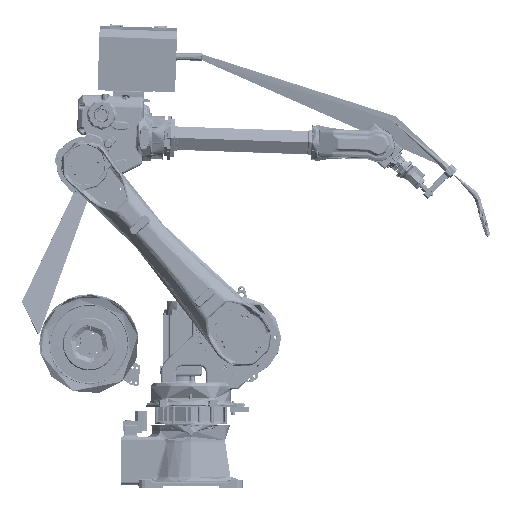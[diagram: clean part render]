
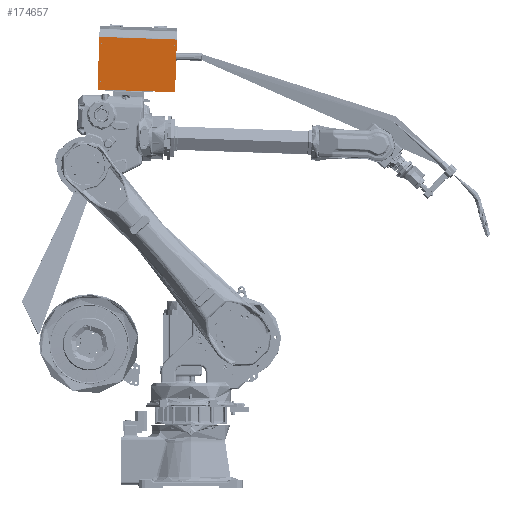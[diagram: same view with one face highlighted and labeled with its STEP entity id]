
A CAD part, front view. The second image highlights one B-rep face of the part: STEP entity #174657.
In plain terms, the highlighted planar face has unit normal (-0.003, -0.997, -0.079).
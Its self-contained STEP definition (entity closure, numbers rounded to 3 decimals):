
#173813=DIRECTION('',(-0.034,0.079,-0.996));
#173814=VECTOR('',#173813,177.006);
#173815=CARTESIAN_POINT('',(-306.612,-95.127,
1659.792));
#173816=LINE('',#173815,#173814);
#174059=DIRECTION('',(0.999,0.,
-0.035));
#174060=VECTOR('',#174059,260.);
#174061=CARTESIAN_POINT('',(-312.714,-81.098,
1483.449));
#174062=LINE('',#174061,#174060);
#174067=DIRECTION('',(-0.034,0.079,-0.996));
#174068=VECTOR('',#174067,177.006);
#174069=CARTESIAN_POINT('',(-46.768,-95.127,
1650.802));
#174070=LINE('',#174069,#174068);
#174071=CARTESIAN_POINT('',(-299.341,-93.462,
1638.588));
#174072=DIRECTION('',(-0.003,-0.997,
-0.079));
#174073=DIRECTION('',(-0.999,0.,0.035));
#174074=AXIS2_PLACEMENT_3D('',#174071,#174072,#174073);
#174076=CARTESIAN_POINT('',(-299.341,-93.462,
1638.588));
#174077=DIRECTION('',(-0.003,-0.997,
-0.079));
#174078=DIRECTION('',(0.999,0.,-0.035));
#174079=AXIS2_PLACEMENT_3D('',#174076,#174077,#174078);
#174081=CARTESIAN_POINT('',(-59.899,-83.318,
1502.63));
#174082=DIRECTION('',(-0.003,-0.997,
-0.079));
#174083=DIRECTION('',(-0.999,0.,0.035));
#174084=AXIS2_PLACEMENT_3D('',#174081,#174082,#174083);
#174086=CARTESIAN_POINT('',(-59.899,-83.318,
1502.63));
#174087=DIRECTION('',(-0.003,-0.997,
-0.079));
#174088=DIRECTION('',(0.999,0.,
-0.035));
#174089=AXIS2_PLACEMENT_3D('',#174086,#174087,#174088);
#174091=CARTESIAN_POINT('',(-55.487,-93.462,
1630.151));
#174092=DIRECTION('',(-0.003,-0.997,
-0.079));
#174093=DIRECTION('',(-0.999,0.,0.035));
#174094=AXIS2_PLACEMENT_3D('',#174091,#174092,#174093);
#174096=CARTESIAN_POINT('',(-55.487,-93.462,
1630.151));
#174097=DIRECTION('',(-0.003,-0.997,
-0.079));
#174098=DIRECTION('',(0.999,0.,
-0.035));
#174099=AXIS2_PLACEMENT_3D('',#174096,#174097,#174098);
#174101=CARTESIAN_POINT('',(-303.753,-83.318,
1511.067));
#174102=DIRECTION('',(-0.003,-0.997,
-0.079));
#174103=DIRECTION('',(-0.999,0.,
0.035));
#174104=AXIS2_PLACEMENT_3D('',#174101,#174102,#174103);
#174106=CARTESIAN_POINT('',(-303.753,-83.318,
1511.067));
#174107=DIRECTION('',(-0.003,-0.997,
-0.079));
#174108=DIRECTION('',(0.999,0.,
-0.035));
#174109=AXIS2_PLACEMENT_3D('',#174106,#174107,#174108);
#174115=DIRECTION('',(-0.999,0.,0.035));
#174116=VECTOR('',#174115,260.);
#174117=CARTESIAN_POINT('',(-46.768,-95.127,
1650.802));
#174118=LINE('',#174117,#174116);
#174245=CARTESIAN_POINT('',(-306.612,-95.127,
1659.792));
#174246=VERTEX_POINT('',#174245);
#174247=CARTESIAN_POINT('',(-312.714,-81.098,
1483.449));
#174248=VERTEX_POINT('',#174247);
#174343=CARTESIAN_POINT('',(-52.869,-81.098,
1474.458));
#174344=VERTEX_POINT('',#174343);
#174345=CARTESIAN_POINT('',(-46.768,-95.127,
1650.802));
#174346=VERTEX_POINT('',#174345);
#174347=CARTESIAN_POINT('',(-301.44,-93.462,
1638.661));
#174348=CARTESIAN_POINT('',(-297.242,-93.462,
1638.516));
#174349=VERTEX_POINT('',#174347);
#174350=VERTEX_POINT('',#174348);
#174351=CARTESIAN_POINT('',(-61.998,-83.318,
1502.703));
#174352=CARTESIAN_POINT('',(-57.8,-83.318,
1502.557));
#174353=VERTEX_POINT('',#174351);
#174354=VERTEX_POINT('',#174352);
#174355=CARTESIAN_POINT('',(-57.586,-93.462,
1630.224));
#174356=CARTESIAN_POINT('',(-53.388,-93.462,
1630.078));
#174357=VERTEX_POINT('',#174355);
#174358=VERTEX_POINT('',#174356);
#174359=CARTESIAN_POINT('',(-305.852,-83.318,
1511.14));
#174360=CARTESIAN_POINT('',(-301.654,-83.318,
1510.995));
#174361=VERTEX_POINT('',#174359);
#174362=VERTEX_POINT('',#174360);
#174620=CARTESIAN_POINT('',(-306.578,-95.206,
1660.783));
#174621=DIRECTION('',(-0.003,-0.997,
-0.079));
#174622=DIRECTION('',(-0.034,0.079,-0.996));
#174623=AXIS2_PLACEMENT_3D('',#174620,#174621,#174622);
#174624=PLANE('',#174623);
#174626=ORIENTED_EDGE('',*,*,#174625,.F.);
#174628=ORIENTED_EDGE('',*,*,#174627,.T.);
#174629=ORIENTED_EDGE('',*,*,#174613,.F.);
#174630=ORIENTED_EDGE('',*,*,#174376,.F.);
#174631=EDGE_LOOP('',(#174626,#174628,#174629,#174630));
#174632=FACE_OUTER_BOUND('',#174631,.F.);
#174634=ORIENTED_EDGE('',*,*,#174633,.T.);
#174636=ORIENTED_EDGE('',*,*,#174635,.T.);
#174637=EDGE_LOOP('',(#174634,#174636));
#174638=FACE_BOUND('',#174637,.F.);
#174640=ORIENTED_EDGE('',*,*,#174639,.T.);
#174642=ORIENTED_EDGE('',*,*,#174641,.T.);
#174643=EDGE_LOOP('',(#174640,#174642));
#174644=FACE_BOUND('',#174643,.F.);
#174646=ORIENTED_EDGE('',*,*,#174645,.T.);
#174648=ORIENTED_EDGE('',*,*,#174647,.T.);
#174649=EDGE_LOOP('',(#174646,#174648));
#174650=FACE_BOUND('',#174649,.F.);
#174652=ORIENTED_EDGE('',*,*,#174651,.T.);
#174654=ORIENTED_EDGE('',*,*,#174653,.T.);
#174655=EDGE_LOOP('',(#174652,#174654));
#174656=FACE_BOUND('',#174655,.F.);
#174075=CIRCLE('',#174074,2.1);
#174080=CIRCLE('',#174079,2.1);
#174085=CIRCLE('',#174084,2.1);
#174090=CIRCLE('',#174089,2.1);
#174095=CIRCLE('',#174094,2.1);
#174100=CIRCLE('',#174099,2.1);
#174105=CIRCLE('',#174104,2.1);
#174110=CIRCLE('',#174109,2.1);
#174376=EDGE_CURVE('',#174246,#174248,#173816,.T.);
#174613=EDGE_CURVE('',#174248,#174344,#174062,.T.);
#174625=EDGE_CURVE('',#174346,#174246,#174118,.T.);
#174627=EDGE_CURVE('',#174346,#174344,#174070,.T.);
#174633=EDGE_CURVE('',#174349,#174350,#174075,.T.);
#174635=EDGE_CURVE('',#174350,#174349,#174080,.T.);
#174639=EDGE_CURVE('',#174353,#174354,#174085,.T.);
#174641=EDGE_CURVE('',#174354,#174353,#174090,.T.);
#174645=EDGE_CURVE('',#174357,#174358,#174095,.T.);
#174647=EDGE_CURVE('',#174358,#174357,#174100,.T.);
#174651=EDGE_CURVE('',#174361,#174362,#174105,.T.);
#174653=EDGE_CURVE('',#174362,#174361,#174110,.T.);
#174657=ADVANCED_FACE('',(#174632,#174638,#174644,#174650,#174656),#174624,.T.);
